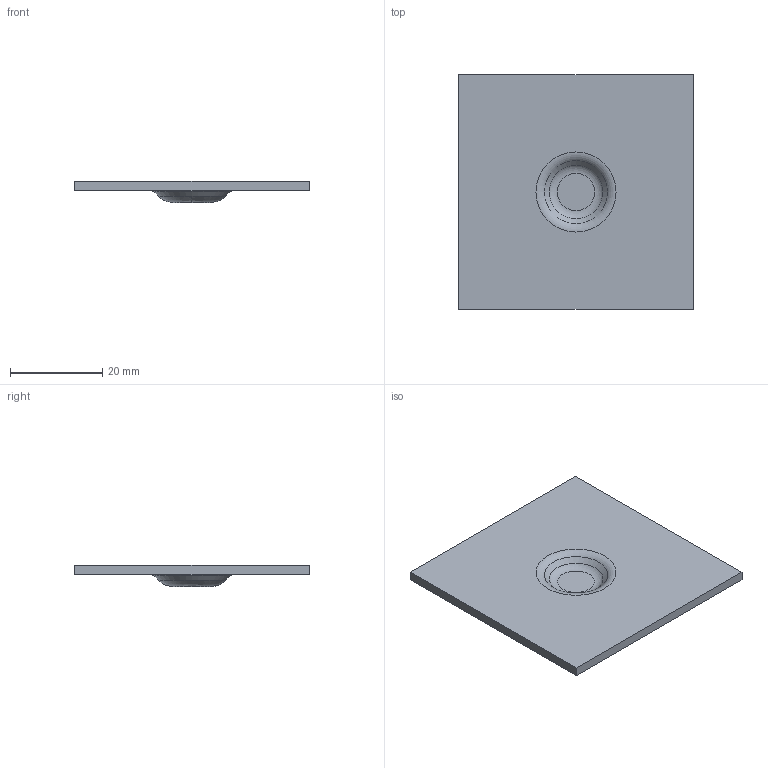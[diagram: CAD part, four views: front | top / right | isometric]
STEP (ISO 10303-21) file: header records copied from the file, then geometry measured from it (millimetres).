
FILE_DESCRIPTION(('PART XYZ REV A'),'1');
FILE_NAME('EF12','2012-03-29T23:15:37',('ERIC'),('TRIAX'),'Spatial Interop R21 SP3','Kubotek KeyCreator 2011 V10.5.0 (24766)','CHAZ');
FILE_SCHEMA(('CONFIG_CONTROL_DESIGN'));
Length unit declared in the file: inch
Products named in the file (1): 1
Bounding box: 50.8 x 50.81 x 4.57 mm (x, y, z)
Volume: 5317.9 mm3; surface area: 5647.3 mm2
Topology: 1 solids, 1 shells, 15 faces, 29 edges, 18 vertices
Faces by surface type: plane 8, torus 3, bspline 2, cone 2
Entity records: 448 total; most frequent: CARTESIAN_POINT 112, DIRECTION 64, ORIENTED_EDGE 48, AXIS2_PLACEMENT_3D 26, EDGE_CURVE 24, EDGE_LOOP 22, VERTEX_POINT 18, ADVANCED_FACE 15
